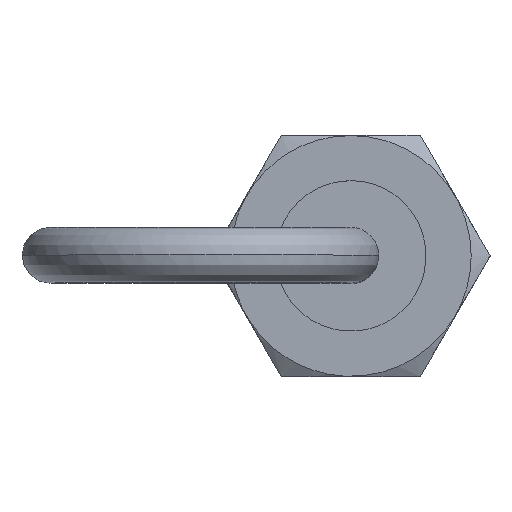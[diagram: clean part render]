
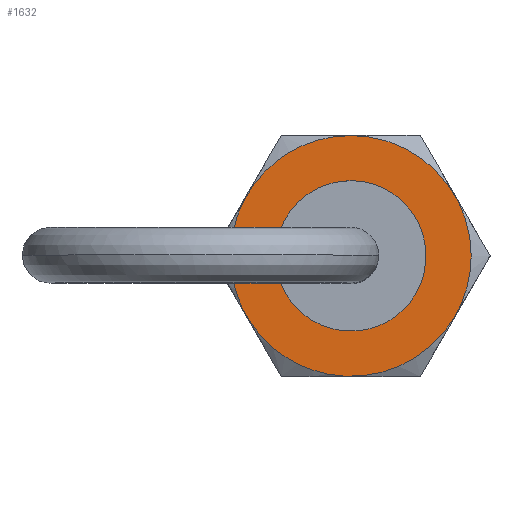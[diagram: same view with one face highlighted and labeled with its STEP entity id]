
A CAD part, top view. The second image highlights one B-rep face of the part: STEP entity #1632.
In plain terms, the highlighted free-form (B-spline) face has degree [1, 1] with [2, 2] control points.
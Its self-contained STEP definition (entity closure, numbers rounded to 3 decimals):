
#1574=CARTESIAN_POINT('V2',(-5.0,0.0,6.4));
#1575=VERTEX_POINT('V2',#1574);
#1583=CARTESIAN_POINT('E2',(-5.0,0.0,6.4));
#1584=CARTESIAN_POINT('E2',(-5.0,8.66,6.4)
   );
#1585=CARTESIAN_POINT('E2',(2.5,4.33,
   6.4));
#1586=CARTESIAN_POINT('E2',(10.0,0.,6.4));
#1587=CARTESIAN_POINT('E2',(2.5,-4.33,
   6.4));
#1588=CARTESIAN_POINT('E2',(-5.0,-8.66,
   6.4));
#1589=CARTESIAN_POINT('E2',(-5.0,0.0,6.4));
#1597=(BOUNDED_CURVE()B_SPLINE_CURVE(2,(#1583,#1584,#1585,#1586,
   #1587,#1588,#1589),.CIRCULAR_ARC.,.T.,.U.)
   B_SPLINE_CURVE_WITH_KNOTS((3,2,2,3),(0.0,43.301,
   86.603,129.904),.UNSPECIFIED.)CURVE()
   GEOMETRIC_REPRESENTATION_ITEM()RATIONAL_B_SPLINE_CURVE((1.0,
   0.5,1.0,0.5,1.0,0.5,1.0)
   )REPRESENTATION_ITEM('E2'));
#1598=EDGE_CURVE('E2',#1575,#1575,#1597,.T.);
#1603=CARTESIAN_POINT('F1',(9.712,8.411,
   6.4));
#1604=CARTESIAN_POINT('F1',(-9.712,8.411,
   6.4));
#1605=CARTESIAN_POINT('F1',(9.712,-8.411,
   6.4));
#1606=CARTESIAN_POINT('F1',(-9.712,-8.411,
   6.4));
#1607=B_SPLINE_SURFACE_WITH_KNOTS('F1',1,1,((#1603,#1605),(#1604,
   #1606)),.PLANE_SURF.,.F.,.F.,.U.,(2,2),(2,2),(0.0,
   1.155),(0.0,1.0),.UNSPECIFIED.);
#1608=CARTESIAN_POINT('V1',(8.0,0.0,6.4));
#1609=VERTEX_POINT('V1',#1608);
#1610=CARTESIAN_POINT('E1',(8.0,0.0,6.4));
#1611=CARTESIAN_POINT('E1',(8.0,13.856,6.4)
   );
#1612=CARTESIAN_POINT('E1',(-4.0,6.928,6.4)
   );
#1613=CARTESIAN_POINT('E1',(-16.0,0.,6.4)
   );
#1614=CARTESIAN_POINT('E1',(-4.0,-6.928,
   6.4));
#1615=CARTESIAN_POINT('E1',(8.0,-13.856,
   6.4));
#1616=CARTESIAN_POINT('E1',(8.0,0.0,6.4));
#1624=(BOUNDED_CURVE()B_SPLINE_CURVE(2,(#1610,#1611,#1612,#1613,
   #1614,#1615,#1616),.CIRCULAR_ARC.,.T.,.U.)
   B_SPLINE_CURVE_WITH_KNOTS((3,2,2,3),(0.0,0.333,
   0.667,1.0),.UNSPECIFIED.)CURVE()
   GEOMETRIC_REPRESENTATION_ITEM()RATIONAL_B_SPLINE_CURVE((1.0,
   0.5,1.0,0.5,1.0,0.5,1.0)
   )REPRESENTATION_ITEM('E1'));
#1625=EDGE_CURVE('E1',#1609,#1609,#1624,.T.);
#1626=ORIENTED_EDGE('E1',*,*,#1625,.T.);
#1627=EDGE_LOOP('F1',(#1626));
#1628=FACE_OUTER_BOUND('F1',#1627,.T.);
#1629=ORIENTED_EDGE('F2',*,*,#1598,.T.);
#1630=EDGE_LOOP('F1',(#1629));
#1631=FACE_BOUND('F1',#1630,.T.);
#1632=ADVANCED_FACE('F1',(#1628,#1631),#1607,.T.);
